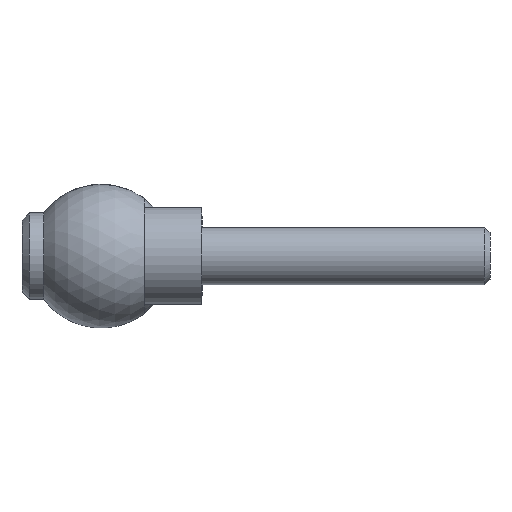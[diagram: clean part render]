
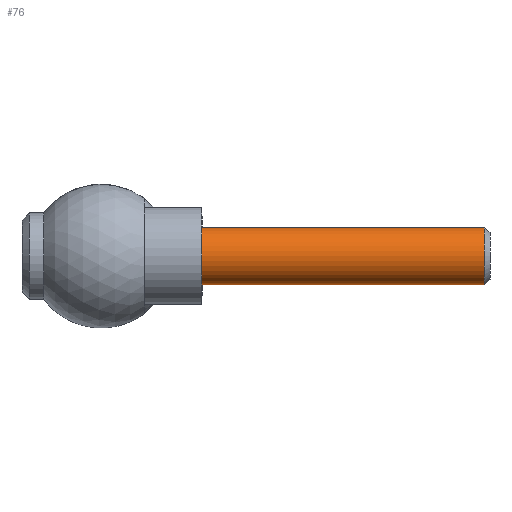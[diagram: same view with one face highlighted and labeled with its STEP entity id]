
A CAD part, left-side view. The second image highlights one B-rep face of the part: STEP entity #76.
In plain terms, the highlighted cylindrical face has radius 4 mm (diameter 8 mm), a full revolution.
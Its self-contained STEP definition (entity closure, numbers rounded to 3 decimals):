
#76 = ADVANCED_FACE( '', ( #92, #93 ), #94, .T. );
#92 = FACE_OUTER_BOUND( '', #130, .T. );
#93 = FACE_OUTER_BOUND( '', #131, .T. );
#94 = CYLINDRICAL_SURFACE( '', #132, 4. );
#130 = EDGE_LOOP( '', ( #170 ) );
#131 = EDGE_LOOP( '', ( #171 ) );
#132 = AXIS2_PLACEMENT_3D( '', #172, #173, #174 );
#170 = ORIENTED_EDGE( '', *, *, #230, .F. );
#171 = ORIENTED_EDGE( '', *, *, #231, .T. );
#172 = CARTESIAN_POINT( '', ( 0., -40., 0. ) );
#173 = DIRECTION( '', ( 0., 1., 0. ) );
#174 = DIRECTION( '', ( 0., 0., -1. ) );
#230 = EDGE_CURVE( '', #244, #244, #245, .T. );
#231 = EDGE_CURVE( '', #246, #246, #247, .T. );
#244 = VERTEX_POINT( '', #268 );
#245 = CIRCLE( '', #269, 4. );
#246 = VERTEX_POINT( '', #270 );
#247 = CIRCLE( '', #271, 4. );
#268 = CARTESIAN_POINT( '', ( 0., -39.233, -4. ) );
#269 = AXIS2_PLACEMENT_3D( '', #293, #294, #295 );
#270 = CARTESIAN_POINT( '', ( 0., 0., -4. ) );
#271 = AXIS2_PLACEMENT_3D( '', #296, #297, #298 );
#293 = CARTESIAN_POINT( '', ( 0., -39.233, 0. ) );
#294 = DIRECTION( '', ( 0., -1., 0. ) );
#295 = DIRECTION( '', ( 0., 0., -1. ) );
#296 = CARTESIAN_POINT( '', ( 0., 0., 0. ) );
#297 = DIRECTION( '', ( 0., -1., 0. ) );
#298 = DIRECTION( '', ( 0., 0., -1. ) );
